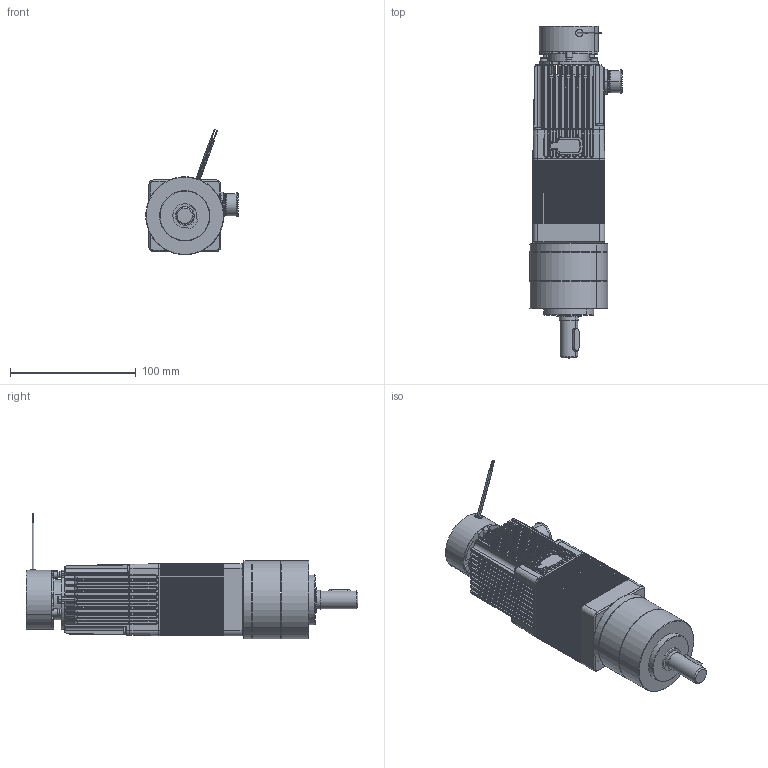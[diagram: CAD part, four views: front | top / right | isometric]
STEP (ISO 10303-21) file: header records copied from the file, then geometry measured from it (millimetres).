
FILE_DESCRIPTION((''),'2;1');
FILE_NAME('ENV_SIMP_STEP_TEMP','2012-10-24T',('VALJBL1'),('CROUZET-AUTOMATISMES'),'PRO/ENGINEER BY PARAMETRIC TECHNOLOGY CORPORATION, 2012090','PRO/ENGINEER BY PARAMETRIC TECHNOLOGY CORPORATION, 2012090','');
FILE_SCHEMA(('CONFIG_CONTROL_DESIGN'));
Products named in the file (1): ENV_SIMP_STEP_TEMP
Bounding box: 73.23 x 263.7 x 99.51 mm (x, y, z)
Surface area: 122102.6 mm2 (no closed solid volume)
Topology: 0 solids, 191 shells, 3224 faces, 9843 edges, 6586 vertices
Faces by surface type: cylinder 1569, plane 1410, sphere 94, bspline 68, torus 55, cone 28
Entity records: 115635 total; most frequent: CARTESIAN_POINT 32360, DIRECTION 17252, ORIENTED_EDGE 15225, EDGE_CURVE 9843, VERTEX_POINT 6586, VECTOR 5786, LINE 5786, AXIS2_PLACEMENT_3D 5733
